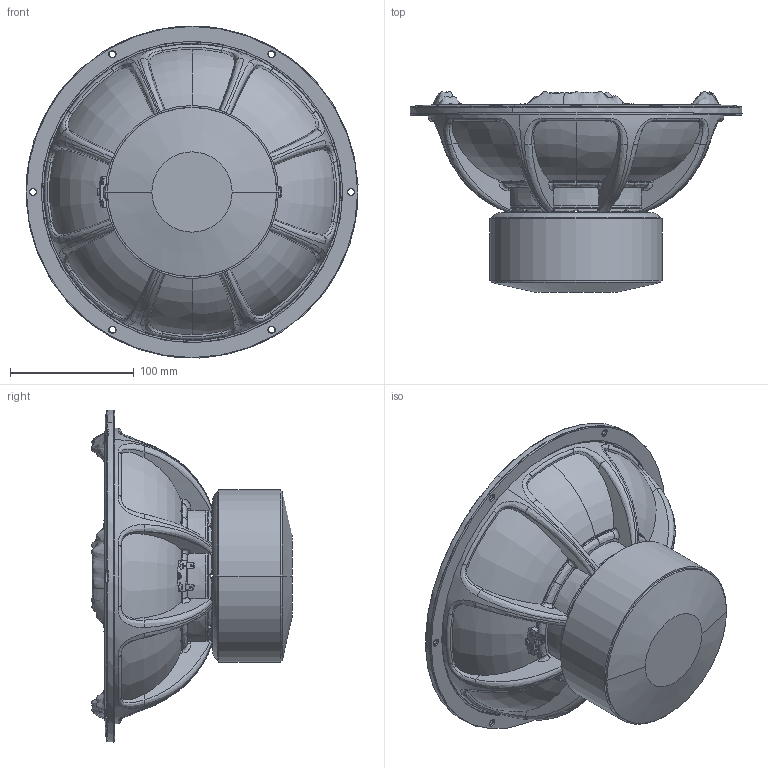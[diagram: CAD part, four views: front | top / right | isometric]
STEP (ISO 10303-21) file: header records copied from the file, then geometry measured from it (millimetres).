
FILE_DESCRIPTION (( 'STEP AP203' ), '1' );
FILE_NAME ('DU87-011-01 10in active.STEP', '2023-08-24T14:31:14', ( '' ), ( '' ), 'SwSTEP 2.0', 'SolidWorks 2022', '' );
FILE_SCHEMA (( 'CONFIG_CONTROL_DESIGN' ));
Length unit declared in the file: millimetre
Products named in the file (1): DU87-011-01 10in active
Bounding box: 268.74 x 162.31 x 268.74 mm (x, y, z)
Volume: 3170240.2 mm3; surface area: 227923 mm2
Topology: 1 solids, 9 shells, 1244 faces, 3155 edges, 1857 vertices
Faces by surface type: bspline 474, torus 205, plane 193, cylinder 174, cone 120, sphere 78
Entity records: 363616 total; most frequent: CARTESIAN_POINT 338359, ORIENTED_EDGE 6164, DIRECTION 4183, EDGE_CURVE 3082, AXIS2_PLACEMENT_3D 1886, VERTEX_POINT 1856, B_SPLINE_CURVE_WITH_KNOTS 1410, EDGE_LOOP 1294
